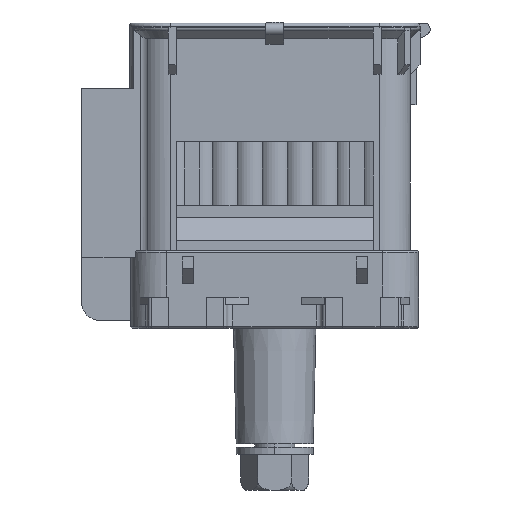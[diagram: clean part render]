
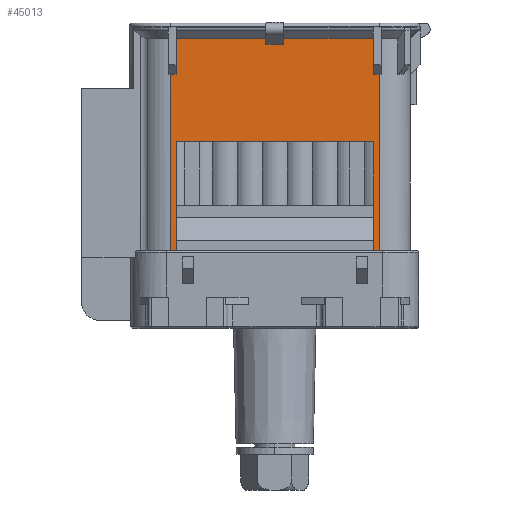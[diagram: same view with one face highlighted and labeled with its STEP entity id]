
A CAD part, front view. The second image highlights one B-rep face of the part: STEP entity #45013.
In plain terms, the highlighted planar face has unit normal (0, -1, 0).
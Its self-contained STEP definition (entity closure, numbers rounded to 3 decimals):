
#9201=DIRECTION('',(0.,0.,1.));
#9202=VECTOR('',#9201,21.7);
#9203=CARTESIAN_POINT('',(16.6,-19.725,-41.65));
#9204=LINE('',#9203,#9202);
#9205=DIRECTION('',(1.,0.,0.));
#9206=VECTOR('',#9205,33.2);
#9207=CARTESIAN_POINT('',(-16.6,-19.725,-19.95));
#9208=LINE('',#9207,#9206);
#9209=DIRECTION('',(0.,0.,1.));
#9210=VECTOR('',#9209,21.7);
#9211=CARTESIAN_POINT('',(-16.6,-19.725,-41.65));
#9212=LINE('',#9211,#9210);
#9213=DIRECTION('',(1.,0.,0.));
#9214=VECTOR('',#9213,33.2);
#9215=CARTESIAN_POINT('',(-16.6,-19.725,-41.65));
#9216=LINE('',#9215,#9214);
#9217=DIRECTION('',(0.,0.,1.));
#9218=VECTOR('',#9217,41.425);
#9219=CARTESIAN_POINT('',(-17.575,-19.725,-50.));
#9220=LINE('',#9219,#9218);
#9221=DIRECTION('',(1.,0.,-0.001));
#9222=VECTOR('',#9221,0.975);
#9223=CARTESIAN_POINT('',(-17.575,-19.725,-8.575));
#9224=LINE('',#9223,#9222);
#9225=DIRECTION('',(0.,0.,-1.));
#9226=VECTOR('',#9225,6.001);
#9227=CARTESIAN_POINT('',(-16.6,-19.725,-2.575));
#9228=LINE('',#9227,#9226);
#9229=DIRECTION('',(1.,0.,0.));
#9230=VECTOR('',#9229,15.1);
#9231=CARTESIAN_POINT('',(-16.6,-19.725,-2.575));
#9232=LINE('',#9231,#9230);
#9233=DIRECTION('',(0.,0.,1.));
#9234=VECTOR('',#9233,0.965);
#9235=CARTESIAN_POINT('',(-1.5,-19.725,-3.54));
#9236=LINE('',#9235,#9234);
#9237=DIRECTION('',(1.,0.,0.));
#9238=VECTOR('',#9237,3.);
#9239=CARTESIAN_POINT('',(-1.5,-19.725,-3.54));
#9240=LINE('',#9239,#9238);
#9241=DIRECTION('',(0.,0.,1.));
#9242=VECTOR('',#9241,0.965);
#9243=CARTESIAN_POINT('',(1.5,-19.725,-3.54));
#9244=LINE('',#9243,#9242);
#9245=DIRECTION('',(1.,0.,0.));
#9246=VECTOR('',#9245,15.1);
#9247=CARTESIAN_POINT('',(1.5,-19.725,-2.575));
#9248=LINE('',#9247,#9246);
#9249=DIRECTION('',(0.,0.,-1.));
#9250=VECTOR('',#9249,6.);
#9251=CARTESIAN_POINT('',(16.6,-19.725,-2.575));
#9252=LINE('',#9251,#9250);
#9253=DIRECTION('',(-1.,0.,0.));
#9254=VECTOR('',#9253,0.975);
#9255=CARTESIAN_POINT('',(17.575,-19.725,-8.575));
#9256=LINE('',#9255,#9254);
#9257=DIRECTION('',(1.,0.,0.));
#9258=VECTOR('',#9257,0.975);
#9259=CARTESIAN_POINT('',(16.6,-19.725,-50.));
#9260=LINE('',#9259,#9258);
#9261=DIRECTION('',(0.,0.,1.));
#9262=VECTOR('',#9261,7.35);
#9263=CARTESIAN_POINT('',(16.6,-19.725,-50.));
#9264=LINE('',#9263,#9262);
#9265=DIRECTION('',(-1.,0.,0.));
#9266=VECTOR('',#9265,4.);
#9267=CARTESIAN_POINT('',(16.6,-19.725,-42.65));
#9268=LINE('',#9267,#9266);
#9269=DIRECTION('',(0.,0.,1.));
#9270=VECTOR('',#9269,7.35);
#9271=CARTESIAN_POINT('',(12.6,-19.725,-50.));
#9272=LINE('',#9271,#9270);
#9273=DIRECTION('',(1.,0.,0.));
#9274=VECTOR('',#9273,25.2);
#9275=CARTESIAN_POINT('',(-12.6,-19.725,-50.));
#9276=LINE('',#9275,#9274);
#9277=DIRECTION('',(0.,0.,1.));
#9278=VECTOR('',#9277,7.35);
#9279=CARTESIAN_POINT('',(-12.6,-19.725,-50.));
#9280=LINE('',#9279,#9278);
#9281=DIRECTION('',(-1.,0.,0.));
#9282=VECTOR('',#9281,4.);
#9283=CARTESIAN_POINT('',(-12.6,-19.725,-42.65));
#9284=LINE('',#9283,#9282);
#9285=DIRECTION('',(0.,0.,1.));
#9286=VECTOR('',#9285,7.35);
#9287=CARTESIAN_POINT('',(-16.6,-19.725,-50.));
#9288=LINE('',#9287,#9286);
#9289=DIRECTION('',(1.,0.,0.));
#9290=VECTOR('',#9289,0.975);
#9291=CARTESIAN_POINT('',(-17.575,-19.725,-50.));
#9292=LINE('',#9291,#9290);
#10971=DIRECTION('',(0.,0.,1.));
#10972=VECTOR('',#10971,41.425);
#10973=CARTESIAN_POINT('',(17.575,-19.725,-50.));
#10974=LINE('',#10973,#10972);
#25427=CARTESIAN_POINT('',(-1.5,-19.725,-3.54));
#25428=CARTESIAN_POINT('',(-1.5,-19.725,-2.575));
#25429=VERTEX_POINT('',#25427);
#25430=VERTEX_POINT('',#25428);
#25431=CARTESIAN_POINT('',(1.5,-19.725,-3.54));
#25432=CARTESIAN_POINT('',(1.5,-19.725,-2.575));
#25433=VERTEX_POINT('',#25431);
#25434=VERTEX_POINT('',#25432);
#25607=CARTESIAN_POINT('',(16.6,-19.725,-42.65));
#25608=CARTESIAN_POINT('',(12.6,-19.725,-42.65));
#25609=VERTEX_POINT('',#25607);
#25610=VERTEX_POINT('',#25608);
#25615=CARTESIAN_POINT('',(-12.6,-19.725,-42.65));
#25616=CARTESIAN_POINT('',(-16.6,-19.725,-42.65));
#25617=VERTEX_POINT('',#25615);
#25618=VERTEX_POINT('',#25616);
#25695=CARTESIAN_POINT('',(16.6,-19.725,-41.65));
#25696=CARTESIAN_POINT('',(16.6,-19.725,-19.95));
#25697=VERTEX_POINT('',#25695);
#25698=VERTEX_POINT('',#25696);
#25699=CARTESIAN_POINT('',(-16.6,-19.725,-41.65));
#25700=CARTESIAN_POINT('',(-16.6,-19.725,-19.95));
#25701=VERTEX_POINT('',#25699);
#25702=VERTEX_POINT('',#25700);
#26019=CARTESIAN_POINT('',(16.6,-19.725,-2.575));
#26020=CARTESIAN_POINT('',(16.6,-19.725,-8.575));
#26021=VERTEX_POINT('',#26019);
#26022=VERTEX_POINT('',#26020);
#26023=CARTESIAN_POINT('',(17.575,-19.725,-8.575));
#26024=VERTEX_POINT('',#26023);
#26039=CARTESIAN_POINT('',(-16.6,-19.725,-2.575));
#26040=CARTESIAN_POINT('',(-16.6,-19.725,-8.576));
#26041=VERTEX_POINT('',#26039);
#26042=VERTEX_POINT('',#26040);
#26043=CARTESIAN_POINT('',(-17.575,-19.725,-8.575));
#26044=VERTEX_POINT('',#26043);
#27937=CARTESIAN_POINT('',(-17.575,-19.725,-50.));
#27938=VERTEX_POINT('',#27937);
#27939=CARTESIAN_POINT('',(-16.6,-19.725,-50.));
#27940=VERTEX_POINT('',#27939);
#27941=CARTESIAN_POINT('',(-12.6,-19.725,-50.));
#27942=CARTESIAN_POINT('',(12.6,-19.725,-50.));
#27943=VERTEX_POINT('',#27941);
#27944=VERTEX_POINT('',#27942);
#27945=CARTESIAN_POINT('',(16.6,-19.725,-50.));
#27946=CARTESIAN_POINT('',(17.575,-19.725,-50.));
#27947=VERTEX_POINT('',#27945);
#27948=VERTEX_POINT('',#27946);
#44957=CARTESIAN_POINT('',(-17.575,-19.725,-50.));
#44958=DIRECTION('',(0.,-1.,0.));
#44959=DIRECTION('',(1.,0.,0.));
#44960=AXIS2_PLACEMENT_3D('',#44957,#44958,#44959);
#44961=PLANE('',#44960);
#44963=ORIENTED_EDGE('',*,*,#44962,.T.);
#44965=ORIENTED_EDGE('',*,*,#44964,.T.);
#44967=ORIENTED_EDGE('',*,*,#44966,.F.);
#44969=ORIENTED_EDGE('',*,*,#44968,.T.);
#44970=ORIENTED_EDGE('',*,*,#44940,.F.);
#44972=ORIENTED_EDGE('',*,*,#44971,.T.);
#44974=ORIENTED_EDGE('',*,*,#44973,.T.);
#44976=ORIENTED_EDGE('',*,*,#44975,.T.);
#44978=ORIENTED_EDGE('',*,*,#44977,.T.);
#44980=ORIENTED_EDGE('',*,*,#44979,.F.);
#44982=ORIENTED_EDGE('',*,*,#44981,.F.);
#44984=ORIENTED_EDGE('',*,*,#44983,.F.);
#44986=ORIENTED_EDGE('',*,*,#44985,.T.);
#44988=ORIENTED_EDGE('',*,*,#44987,.T.);
#44990=ORIENTED_EDGE('',*,*,#44989,.F.);
#44992=ORIENTED_EDGE('',*,*,#44991,.F.);
#44994=ORIENTED_EDGE('',*,*,#44993,.T.);
#44996=ORIENTED_EDGE('',*,*,#44995,.T.);
#44998=ORIENTED_EDGE('',*,*,#44997,.F.);
#45000=ORIENTED_EDGE('',*,*,#44999,.F.);
#45001=EDGE_LOOP('',(#44963,#44965,#44967,#44969,#44970,#44972,#44974,#44976,
#44978,#44980,#44982,#44984,#44986,#44988,#44990,#44992,#44994,#44996,#44998,
#45000));
#45002=FACE_OUTER_BOUND('',#45001,.F.);
#45004=ORIENTED_EDGE('',*,*,#45003,.T.);
#45006=ORIENTED_EDGE('',*,*,#45005,.F.);
#45008=ORIENTED_EDGE('',*,*,#45007,.F.);
#45010=ORIENTED_EDGE('',*,*,#45009,.T.);
#45011=EDGE_LOOP('',(#45004,#45006,#45008,#45010));
#45012=FACE_BOUND('',#45011,.F.);
#44940=EDGE_CURVE('',#25429,#25430,#9236,.T.);
#44962=EDGE_CURVE('',#27938,#26044,#9220,.T.);
#44964=EDGE_CURVE('',#26044,#26042,#9224,.T.);
#44966=EDGE_CURVE('',#26041,#26042,#9228,.T.);
#44968=EDGE_CURVE('',#26041,#25430,#9232,.T.);
#44971=EDGE_CURVE('',#25429,#25433,#9240,.T.);
#44973=EDGE_CURVE('',#25433,#25434,#9244,.T.);
#44975=EDGE_CURVE('',#25434,#26021,#9248,.T.);
#44977=EDGE_CURVE('',#26021,#26022,#9252,.T.);
#44979=EDGE_CURVE('',#26024,#26022,#9256,.T.);
#44981=EDGE_CURVE('',#27948,#26024,#10974,.T.);
#44983=EDGE_CURVE('',#27947,#27948,#9260,.T.);
#44985=EDGE_CURVE('',#27947,#25609,#9264,.T.);
#44987=EDGE_CURVE('',#25609,#25610,#9268,.T.);
#44989=EDGE_CURVE('',#27944,#25610,#9272,.T.);
#44991=EDGE_CURVE('',#27943,#27944,#9276,.T.);
#44993=EDGE_CURVE('',#27943,#25617,#9280,.T.);
#44995=EDGE_CURVE('',#25617,#25618,#9284,.T.);
#44997=EDGE_CURVE('',#27940,#25618,#9288,.T.);
#44999=EDGE_CURVE('',#27938,#27940,#9292,.T.);
#45003=EDGE_CURVE('',#25697,#25698,#9204,.T.);
#45005=EDGE_CURVE('',#25702,#25698,#9208,.T.);
#45007=EDGE_CURVE('',#25701,#25702,#9212,.T.);
#45009=EDGE_CURVE('',#25701,#25697,#9216,.T.);
#45013=ADVANCED_FACE('',(#45002,#45012),#44961,.T.);
